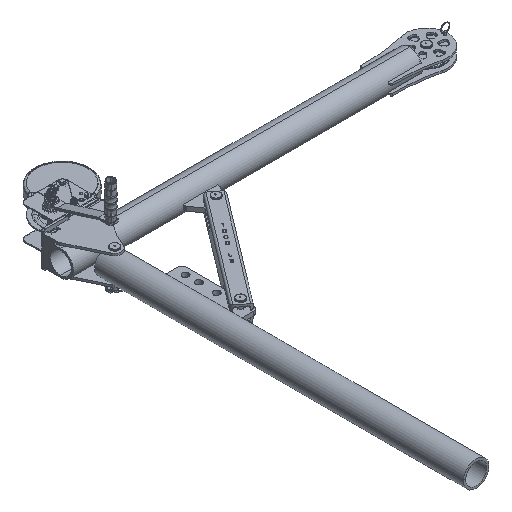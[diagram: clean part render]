
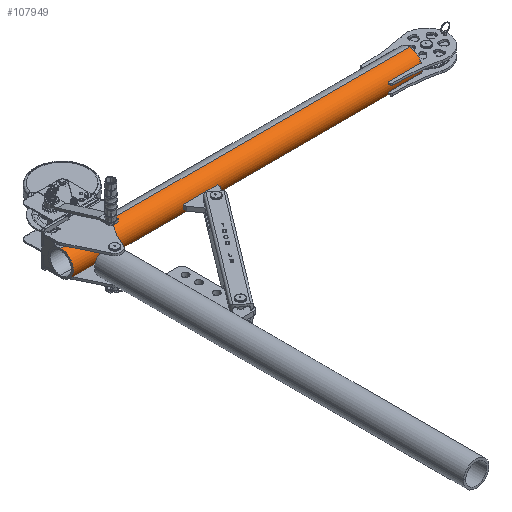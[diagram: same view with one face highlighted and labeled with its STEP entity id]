
A CAD part, isometric view. The second image highlights one B-rep face of the part: STEP entity #107949.
In plain terms, the highlighted cylindrical face has radius 38.1 mm (diameter 76.2 mm), a partial arc.
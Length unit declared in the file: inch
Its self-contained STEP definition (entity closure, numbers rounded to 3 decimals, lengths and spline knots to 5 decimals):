
#557 = CARTESIAN_POINT ( 'NONE',  ( 0., 0., 41.25 ) ) ;
#4249 = DIRECTION ( 'NONE',  ( 0., 0., -1. ) ) ;
#6508 = CARTESIAN_POINT ( 'NONE',  ( 1.5, 0., 0. ) ) ;
#9970 = AXIS2_PLACEMENT_3D ( 'NONE', #557, #102363, #115566 ) ;
#15071 = AXIS2_PLACEMENT_3D ( 'NONE', #141933, #80672, #82534 ) ;
#16527 = CARTESIAN_POINT ( 'NONE',  ( -1.5, 0., 41.25 ) ) ;
#26259 = DIRECTION ( 'NONE',  ( 0., 0., 1. ) ) ;
#50596 = VERTEX_POINT ( 'NONE', #6508 ) ;
#53224 = ORIENTED_EDGE ( 'NONE', *, *, #132325, .F. ) ;
#59336 = EDGE_CURVE ( 'NONE', #63820, #50596, #140474, .T. ) ;
#63820 = VERTEX_POINT ( 'NONE', #135459 ) ;
#70032 = VERTEX_POINT ( 'NONE', #78574 ) ;
#74260 = ORIENTED_EDGE ( 'NONE', *, *, #98597, .T. ) ;
#78574 = CARTESIAN_POINT ( 'NONE',  ( -1.5, 0., 0. ) ) ;
#80672 = DIRECTION ( 'NONE',  ( 0., 0., -1. ) ) ;
#82022 = CARTESIAN_POINT ( 'NONE',  ( 1.5, 0., 41.25 ) ) ;
#82534 = DIRECTION ( 'NONE',  ( -1., 0., 0. ) ) ;
#86788 = VECTOR ( 'NONE', #4249, 39.37008 ) ;
#98597 = EDGE_CURVE ( 'NONE', #50596, #70032, #185903, .T. ) ;
#102363 = DIRECTION ( 'NONE',  ( 0., 0., 1. ) ) ;
#104203 = EDGE_LOOP ( 'NONE', ( #53224, #128256, #74260, #174333 ) ) ;
#105121 = LINE ( 'NONE', #16527, #86788 ) ;
#107949 = ADVANCED_FACE ( 'NONE', ( #167461 ), #153339, .T. ) ;
#115566 = DIRECTION ( 'NONE',  ( 1., 0., 0. ) ) ;
#128256 = ORIENTED_EDGE ( 'NONE', *, *, #59336, .T. ) ;
#132325 = EDGE_CURVE ( 'NONE', #63820, #144007, #139472, .T. ) ;
#135459 = CARTESIAN_POINT ( 'NONE',  ( 1.5, 0., 41.25 ) ) ;
#138623 = DIRECTION ( 'NONE',  ( 0., 0., -1. ) ) ;
#138772 = CARTESIAN_POINT ( 'NONE',  ( -1.5, 0., 41.25 ) ) ;
#139472 = CIRCLE ( 'NONE', #9970, 1.5 ) ;
#140474 = LINE ( 'NONE', #82022, #160177 ) ;
#141301 = DIRECTION ( 'NONE',  ( 1., 0., 0. ) ) ;
#141862 = EDGE_CURVE ( 'NONE', #144007, #70032, #105121, .T. ) ;
#141933 = CARTESIAN_POINT ( 'NONE',  ( 0., 0., 41.25 ) ) ;
#144007 = VERTEX_POINT ( 'NONE', #138772 ) ;
#153339 = CYLINDRICAL_SURFACE ( 'NONE', #15071, 1.5 ) ;
#160177 = VECTOR ( 'NONE', #138623, 39.37008 ) ;
#167461 = FACE_OUTER_BOUND ( 'NONE', #104203, .T. ) ;
#173769 = AXIS2_PLACEMENT_3D ( 'NONE', #186520, #26259, #141301 ) ;
#174333 = ORIENTED_EDGE ( 'NONE', *, *, #141862, .F. ) ;
#185903 = CIRCLE ( 'NONE', #173769, 1.5 ) ;
#186520 = CARTESIAN_POINT ( 'NONE',  ( 0., 0., 0. ) ) ;
